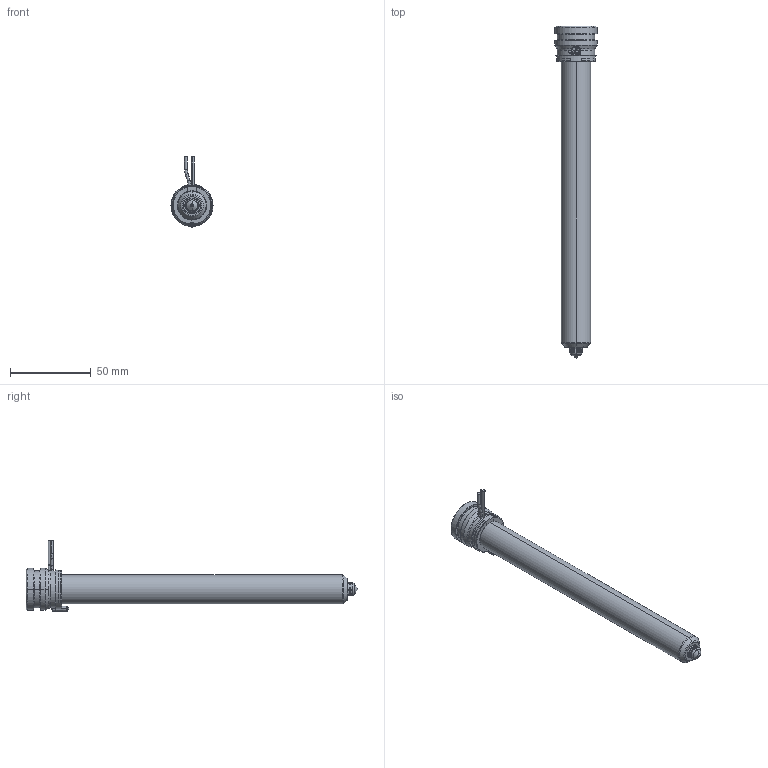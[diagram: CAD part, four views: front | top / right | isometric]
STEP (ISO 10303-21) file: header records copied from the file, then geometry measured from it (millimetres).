
FILE_DESCRIPTION((''),'2;1');
FILE_NAME('MPN-08-24-TX8-186-A','2026-02-05T11:55:29',('UPTIO'),('Thermoplay S.p.A.'),'CREO PARAMETRIC BY PTC INC, 2023494','CREO PARAMETRIC BY PTC INC, 2023494','');
FILE_SCHEMA(('CONFIG_CONTROL_DESIGN','SHAPE_APPEARANCE_LAYERS_GROUPS'));
Length unit declared in the file: millimetre
Products named in the file (1): MPN-08-24-TX8-186-A
Bounding box: 26 x 205.5 x 43.5 mm (x, y, z)
Volume: 38044.1 mm3; surface area: 49978.6 mm2
Topology: 2 solids, 3 shells, 548 faces, 1458 edges, 904 vertices
Faces by surface type: cylinder 180, plane 144, bspline 82, torus 64, cone 60, sphere 12, extrusion 6
Entity records: 29960 total; most frequent: CARTESIAN_POINT 13614, ORIENTED_EDGE 2896, DIRECTION 2574, EDGE_CURVE 1448, AXIS2_PLACEMENT_3D 1006, VERTEX_POINT 904, EDGE_LOOP 576, VECTOR 562
